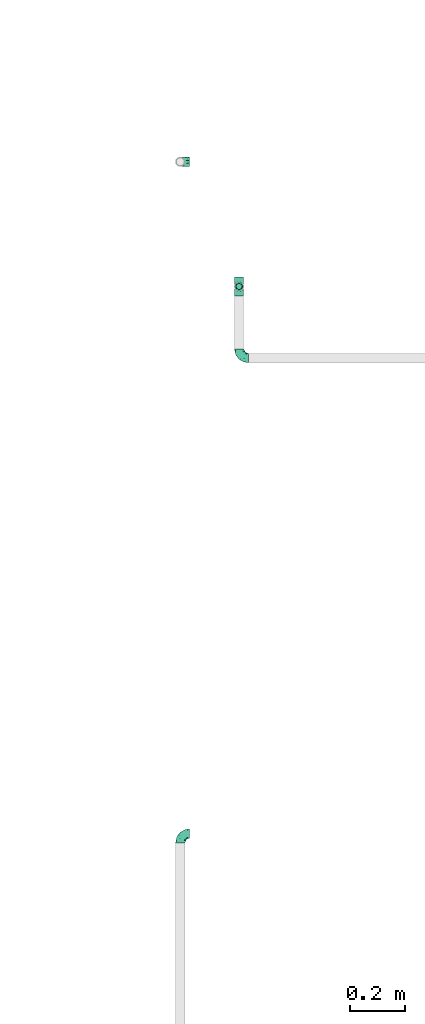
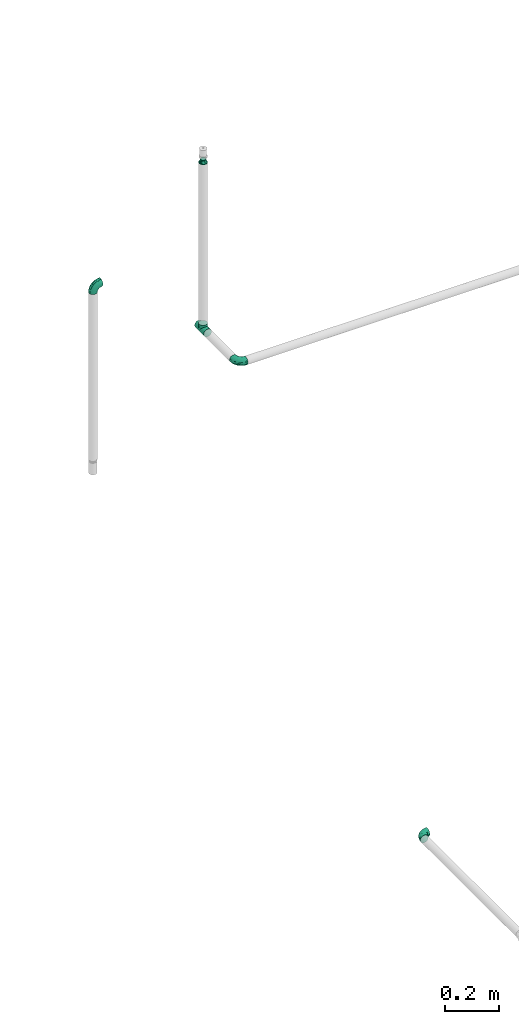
# One storey, part 25 of 94: 5 flow fittings.
"""IFC2X3 building model written with IfcOpenShell, lengths in millimetres."""

from ifc_helpers import new_model, entity, si_unit, converted_unit, derived_unit, direction, frame, origin_with_axes, place, context, subcontext, project, spatial, open_shell, surface_model, source, transform, mapped, type_object, element, save


model = new_model("IFC2X3")

# Units and contexts
model_context = context("Model", 3, precision=0.01, world=frame((0.0, 4.29681676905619e-09, 0.0)), true_north=direction((4.01073788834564e-13, 1.0)))
plan_context = context("Plan", 3, precision=0.01, world=frame((0.0, 4.29681676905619e-09, 0.0)), true_north=direction((4.01073788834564e-13, 1.0)))
body_context = subcontext(model_context, "Body", "Model", "MODEL_VIEW")
ifc_project = project(units=[converted_unit("PLANEANGLEUNIT", "DEGREE", entity("IfcPositiveLengthMeasure", 0.0174532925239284), si_unit("PLANEANGLEUNIT", "RADIAN"), dimensions=[0, 0, 0, 0, 0, 0, 0]), si_unit("AREAUNIT", "SQUARE_METRE"), si_unit("LENGTHUNIT", "METRE", prefix="MILLI"), si_unit("MASSUNIT", "GRAM", prefix="KILO"), si_unit("POWERUNIT", "WATT"), si_unit("PRESSUREUNIT", "PASCAL", prefix="KILO"), si_unit("FORCEUNIT", "NEWTON", prefix="KILO"), si_unit("ELECTRICVOLTAGEUNIT", "VOLT"), si_unit("ELECTRICCURRENTUNIT", "AMPERE"), si_unit("THERMODYNAMICTEMPERATUREUNIT", "DEGREE_CELSIUS"), si_unit("TIMEUNIT", "SECOND"), si_unit("VOLUMEUNIT", "CUBIC_METRE"), derived_unit("LINEARVELOCITYUNIT", [(si_unit("LENGTHUNIT", "METRE"), 1), (si_unit("TIMEUNIT", "SECOND"), -1)]), derived_unit("VOLUMETRICFLOWRATEUNIT", [(si_unit("VOLUMEUNIT", "CUBIC_METRE"), 1), (si_unit("TIMEUNIT", "SECOND"), -1)]), derived_unit("THERMALTRANSMITTANCEUNIT", [(si_unit("POWERUNIT", "WATT"), 1), (si_unit("THERMODYNAMICTEMPERATUREUNIT", "KELVIN"), -1), (si_unit("AREAUNIT", "SQUARE_METRE"), -1)]), derived_unit("SOUNDPRESSUREUNIT", [(si_unit("PRESSUREUNIT", "PASCAL"), 1)])], contexts=[model_context, plan_context])

# Site, building, storey
site_placement = place(None, frame((0.0, -4.29681676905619e-09, 0.0), z_axis=(0.0, 0.0, 1.0), x_axis=(1.0, 0.0, 0.0)))
site = spatial("IfcSite", under=ifc_project, at=site_placement, CompositionType="ELEMENT")
building_placement = place(site_placement, frame((0.0, 4.29681676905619e-09, 0.0), z_axis=(0.0, 0.0, 1.0), x_axis=(1.0, 0.0, 0.0)))
building = spatial("IfcBuilding", under=site, at=building_placement, Name="mc-building", CompositionType="ELEMENT")
storey_placement = place(building_placement, frame((0.0, 0.0, 210900.0), z_axis=(0.0, 0.0, 1.0), x_axis=(1.0, 0.0, 0.0)))
storey = spatial("IfcBuildingStorey", under=building, at=storey_placement, Name="Nivå F", CompositionType="ELEMENT", Elevation=210900.0)

# Flow fittings
pipe_fitting_type_1 = type_object("IfcPipeFittingType", Name="magi_pipe_fe_reducer_centric_short_NOR", PredefinedType="TRANSITION")
shared_shape_1 = source(origin_with_axes(), body_context, "Body", "SurfaceModel", [
    surface_model("IfcShellBasedSurfaceModel", [(14.4, 5.35, -9.26647), (14.4, 0.0, -10.7), (14.4, 2.76936, -10.33541), (14.4, 10.33541, -2.76936), (14.4, 7.56604, -7.56604), (14.4, -10.33541, -2.76936), (14.4, 9.26647, -5.35), (14.4, 0.0, 10.7), (14.4, -5.35, -9.26647), (14.4, -2.76936, -10.33541), (14.4, -7.56604, -7.56604), (14.4, -9.26647, -5.35), (14.4, 10.7, 0.0), (14.4, 10.33541, 2.76936), (14.4, 9.26647, 5.35), (14.4, 7.56604, 7.56604), (14.4, 2.76936, 10.33541), (14.4, 5.35, 9.26647), (14.4, -10.33541, 2.76936), (14.4, -7.56604, 7.56604), (14.4, -9.26647, 5.35), (14.4, -10.7, 0.0), (14.4, -2.76936, 10.33541), (14.4, -5.35, 9.26647), (12.4, 2.76936, 10.33541), (12.4, -10.33541, -2.76936), (12.4, 0.0, 10.7), (12.4, 5.35, 9.26647), (12.4, 7.56604, 7.56604), (12.4, 9.26647, 5.35), (12.4, 10.33541, 2.76936), (12.4, -10.33541, 2.76936), (12.4, -2.76936, 10.33541), (12.4, -7.56604, 7.56604), (12.4, -5.35, 9.26647), (12.4, -9.26647, 5.35), (12.4, -10.7, 0.0), (12.4, 10.33541, -2.76936), (12.4, 5.35, -9.26647), (12.4, 9.26647, -5.35), (12.4, 7.56604, -7.56604), (12.4, 2.76936, -10.33541), (12.4, -9.26647, -5.35), (12.4, -5.35, -9.26647), (12.4, -7.56604, -7.56604), (12.4, 0.0, -10.7), (12.4, -2.76936, -10.33541), (12.4, 10.7, 0.0), (-2.0, 11.9501, 11.9501), (-2.0, 0.0, 16.9), (-2.0, 4.37404, 16.32415), (-2.0, 8.45, 14.63583), (-2.0, 14.63583, 8.45), (-2.0, 16.32415, 4.37404), (-2.0, -16.32415, 4.37404), (-2.0, -8.45, 14.63583), (-2.0, -14.63583, 8.45), (-2.0, -11.9501, 11.9501), (-2.0, -4.37404, 16.32415), (-2.0, -16.32415, -4.37404), (-2.0, -16.9, 0.0), (-2.0, -8.45, -14.63583), (-2.0, 16.32415, -4.37404), (-2.0, 11.9501, -11.9501), (-2.0, 14.63583, -8.45), (-2.0, 8.45, -14.63583), (-2.0, 4.37404, -16.32415), (-2.0, 0.0, -16.9), (-2.0, -11.9501, -11.9501), (-2.0, -14.63583, -8.45), (-2.0, -4.37404, -16.32415), (-2.0, 16.9, 0.0), (0.0, 4.37404, -16.32415), (0.0, 8.45, -14.63583), (0.0, 11.9501, -11.9501), (0.0, 0.0, -16.9), (0.0, 16.32415, -4.37404), (0.0, 16.32415, 4.37404), (0.0, 14.63583, -8.45), (0.0, -8.45, -14.63583), (0.0, -4.37404, -16.32415), (0.0, -11.9501, -11.9501), (0.0, -16.32415, -4.37404), (0.0, -14.63583, -8.45), (0.0, -16.32415, 4.37404), (0.0, 16.9, 0.0), (0.0, 14.63583, 8.45), (0.0, 11.9501, 11.9501), (0.0, 4.37404, 16.32415), (0.0, 8.45, 14.63583), (0.0, 0.0, 16.9), (0.0, -14.63583, 8.45), (0.0, -16.9, 0.0), (0.0, -8.45, 14.63583), (0.0, -11.9501, 11.9501), (0.0, -4.37404, 16.32415), (12.4, 9.3625, -2.31662), (0.0, 14.42505, -5.97505), (0.0, 15.66253, -2.98753), (12.4, -6.6875, -6.94985), (0.0, -13.18758, -8.96258), (0.0, 2.98753, -15.66253), (12.4, 0.0, -9.26647), (12.4, 6.6875, -6.94985), (0.0, 8.96258, -13.18758), (12.4, -9.3625, -2.31662), (0.0, -15.66253, -2.98753), (0.0, -14.42505, -5.97505), (0.0, 5.97505, -14.42505), (0.0, -2.98753, -15.66253), (0.0, -8.96258, -13.18758), (0.0, 13.18758, -8.96258), (12.4, 8.025, -4.63324), (12.4, -2.675, -9.26647), (12.4, 2.675, -9.26647), (0.0, -5.97505, -14.42505), (12.4, -8.025, -4.63324), (12.4, -9.3625, 2.31662), (0.0, -14.42505, 5.97505), (0.0, -15.66253, 2.98753), (12.4, 6.6875, 6.94985), (0.0, 13.18758, 8.96258), (0.0, -2.98753, 15.66253), (12.4, 0.0, 9.26647), (12.4, -6.6875, 6.94985), (0.0, -8.96258, 13.18758), (12.4, 9.3625, 2.31662), (0.0, 15.66253, 2.98753), (0.0, 14.42505, 5.97505), (0.0, -5.97505, 14.42505), (0.0, 2.98753, 15.66253), (0.0, 8.96258, 13.18758), (0.0, -13.18758, 8.96258), (12.4, -8.025, 4.63324), (12.4, 2.675, 9.26647), (12.4, -2.675, 9.26647), (0.0, 5.97505, 14.42505), (12.4, 8.025, 4.63324)], [open_shell([[[0, 1, 2]], [[3, 0, 4]], [[5, 0, 3]], [[3, 4, 6]], [[7, 5, 3]], [[1, 8, 9]], [[1, 0, 8]], [[10, 5, 11]], [[5, 10, 8]], [[0, 5, 8]], [[3, 12, 13]], [[13, 14, 15]], [[13, 15, 16]], [[7, 3, 16]], [[16, 15, 17]], [[7, 18, 5]], [[18, 19, 20]], [[21, 5, 18]], [[19, 22, 23]], [[22, 19, 18]], [[7, 22, 18]], [[13, 16, 3]], [[24, 25, 26]], [[27, 25, 24]], [[28, 29, 30]], [[28, 25, 27]], [[31, 26, 25]], [[32, 33, 34]], [[33, 32, 31]], [[33, 31, 35]], [[32, 26, 31]], [[31, 25, 36]], [[30, 37, 28]], [[25, 28, 37]], [[38, 37, 39]], [[37, 38, 25]], [[38, 39, 40]], [[41, 25, 38]], [[42, 43, 44]], [[43, 42, 25]], [[43, 45, 46]], [[43, 25, 41]], [[41, 45, 43]], [[37, 30, 47]], [[25, 5, 36]], [[42, 11, 25]], [[8, 44, 43]], [[42, 44, 10]], [[9, 43, 46]], [[25, 11, 5]], [[5, 21, 36]], [[9, 8, 43]], [[10, 44, 8]], [[10, 11, 42]], [[1, 9, 46]], [[46, 45, 1]], [[41, 2, 45]], [[38, 0, 41]], [[6, 40, 39]], [[38, 40, 4]], [[3, 39, 37]], [[38, 4, 0]], [[0, 2, 41]], [[12, 3, 37]], [[6, 39, 3]], [[6, 4, 40]], [[47, 12, 37]], [[45, 2, 1]], [[30, 13, 47]], [[29, 14, 30]], [[17, 28, 27]], [[29, 28, 15]], [[16, 27, 24]], [[30, 14, 13]], [[13, 12, 47]], [[16, 17, 27]], [[15, 28, 17]], [[15, 14, 29]], [[7, 16, 24]], [[24, 26, 7]], [[32, 22, 26]], [[34, 23, 32]], [[20, 33, 35]], [[34, 33, 19]], [[18, 35, 31]], [[34, 19, 23]], [[23, 22, 32]], [[21, 18, 31]], [[20, 35, 18]], [[20, 19, 33]], [[36, 21, 31]], [[26, 22, 7]], [[48, 49, 50]], [[48, 50, 51]], [[48, 52, 53]], [[48, 53, 49]], [[49, 53, 54]], [[55, 56, 57]], [[55, 58, 49]], [[56, 55, 49]], [[49, 54, 56]], [[54, 59, 60]], [[54, 53, 61]], [[53, 62, 63]], [[63, 62, 64]], [[63, 65, 66]], [[61, 53, 63]], [[67, 63, 66]], [[59, 68, 69]], [[68, 59, 61]], [[61, 67, 70]], [[59, 54, 61]], [[63, 67, 61]], [[53, 71, 62]], [[72, 73, 74]], [[75, 72, 74]], [[74, 76, 77]], [[76, 74, 78]], [[74, 77, 79]], [[75, 79, 80]], [[75, 74, 79]], [[81, 82, 83]], [[82, 81, 79]], [[79, 84, 82]], [[77, 76, 85]], [[77, 86, 87]], [[77, 87, 88]], [[88, 84, 79]], [[88, 87, 89]], [[84, 88, 90]], [[90, 91, 84]], [[92, 82, 84]], [[91, 93, 94]], [[91, 90, 93]], [[93, 90, 95]], [[79, 77, 88]], [[59, 82, 60]], [[69, 83, 59]], [[79, 68, 61]], [[69, 68, 81]], [[80, 61, 70]], [[59, 83, 82]], [[82, 92, 60]], [[80, 79, 61]], [[81, 68, 79]], [[81, 83, 69]], [[75, 80, 70]], [[70, 67, 75]], [[66, 72, 67]], [[65, 73, 66]], [[78, 63, 64]], [[65, 63, 74]], [[76, 64, 62]], [[65, 74, 73]], [[73, 72, 66]], [[85, 76, 62]], [[78, 64, 76]], [[78, 74, 63]], [[71, 85, 62]], [[67, 72, 75]], [[53, 77, 71]], [[52, 86, 53]], [[89, 48, 51]], [[52, 48, 87]], [[88, 51, 50]], [[53, 86, 77]], [[77, 85, 71]], [[88, 89, 51]], [[87, 48, 89]], [[87, 86, 52]], [[90, 88, 50]], [[50, 49, 90]], [[58, 95, 49]], [[55, 93, 58]], [[91, 57, 56]], [[55, 57, 94]], [[84, 56, 54]], [[55, 94, 93]], [[93, 95, 58]], [[92, 84, 54]], [[91, 56, 84]], [[91, 94, 57]], [[60, 92, 54]], [[49, 95, 90]], [[27, 34, 47]], [[47, 34, 43]], [[43, 38, 47]], [[43, 34, 36]], [[90, 87, 94]], [[92, 94, 87]], [[87, 74, 92]], [[75, 92, 74]], [[81, 92, 75]], [[74, 87, 85]], [[96, 97, 98]], [[81, 99, 100]], [[101, 102, 75]], [[98, 85, 47]], [[74, 103, 104]], [[104, 103, 38]], [[105, 106, 107]], [[38, 108, 104]], [[102, 109, 75]], [[110, 99, 81]], [[47, 96, 98]], [[103, 111, 112]], [[109, 102, 113]], [[36, 92, 106]], [[102, 101, 114]], [[110, 115, 43]], [[96, 112, 97]], [[107, 116, 105]], [[36, 106, 105]], [[113, 115, 109]], [[43, 115, 113]], [[116, 107, 100]], [[108, 38, 114]], [[111, 103, 74]], [[111, 97, 112]], [[99, 110, 43]], [[116, 100, 99]], [[101, 108, 114]], [[117, 118, 119]], [[87, 120, 121]], [[122, 123, 90]], [[119, 92, 36]], [[94, 124, 125]], [[125, 124, 34]], [[126, 127, 128]], [[34, 129, 125]], [[123, 130, 90]], [[131, 120, 87]], [[36, 117, 119]], [[124, 132, 133]], [[130, 123, 134]], [[47, 85, 127]], [[123, 122, 135]], [[131, 136, 27]], [[117, 133, 118]], [[128, 137, 126]], [[47, 127, 126]], [[134, 136, 130]], [[27, 136, 134]], [[137, 128, 121]], [[129, 34, 135]], [[132, 124, 94]], [[132, 118, 133]], [[120, 131, 27]], [[137, 121, 120]], [[122, 129, 135]]])]),
])
flow_fitting_1_placement = place(storey_placement, frame((716213.48481, 438166.03424, 4357.64799999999), z_axis=(-1.0, 0.0, 0.0), x_axis=(0.0, 0.0, 1.0)))
element("IfcFlowFitting", 1, at=flow_fitting_1_placement, inside=storey, type_object=pipe_fitting_type_1, Name="magi_pipe_fe_reducer_centric_short_NOR", context=body_context, shape_type="MappedRepresentation", body=[
    mapped(shared_shape_1, transform((0.0, 0.0, 0.0), scale=1.0)),
])
pipe_fitting_type_2 = type_object("IfcPipeFittingType", Name="magi_pipe_fe_tee_centric_90_NOR", PredefinedType="JUNCTION")
shared_shape_2 = source(origin_with_axes(), body_context, "Body", "SurfaceModel", [
    surface_model("IfcShellBasedSurfaceModel", [(-33.8, 4.37404, -16.32415), (-33.8, 0.0, -16.9), (-33.8, 16.32415, -4.37404), (-33.8, 8.45, -14.63583), (-33.8, 11.9501, -11.9501), (-33.8, 14.63583, -8.45), (-33.8, -16.9, 0.0), (-33.8, -11.9501, -11.9501), (-33.8, -14.63583, -8.45), (-33.8, -8.45, -14.63583), (-33.8, -4.37404, -16.32415), (-33.8, -16.32415, -4.37404), (-33.8, 14.63583, 8.45), (-33.8, 16.32415, 4.37404), (-33.8, -8.45, 14.63583), (-33.8, 8.45, 14.63583), (-33.8, 11.9501, 11.9501), (-33.8, 4.37404, 16.32415), (-33.8, 0.0, 16.9), (-33.8, -11.9501, 11.9501), (-33.8, -14.63583, 8.45), (-33.8, -16.32415, 4.37404), (-33.8, -4.37404, 16.32415), (-33.8, 16.9, 0.0), (33.8, 4.37404, -16.32415), (33.8, -16.9, 0.0), (33.8, 0.0, -16.9), (33.8, 14.63583, -8.45), (33.8, 8.45, -14.63583), (33.8, 16.32415, -4.37404), (33.8, 11.9501, -11.9501), (33.8, -16.32415, 4.37404), (33.8, -8.45, -14.63583), (33.8, -4.37404, -16.32415), (33.8, -11.9501, -11.9501), (33.8, -14.63583, -8.45), (33.8, -16.32415, -4.37404), (33.8, 16.32415, 4.37404), (33.8, 8.45, 14.63583), (33.8, 14.63583, 8.45), (33.8, 11.9501, 11.9501), (33.8, -8.45, 14.63583), (33.8, 4.37404, 16.32415), (33.8, -14.63583, 8.45), (33.8, -11.9501, 11.9501), (33.8, 0.0, 16.9), (33.8, -4.37404, 16.32415), (33.8, 16.9, 0.0), (16.28698, -16.28698, 4.51047), (16.9, -16.9, 0.0), (14.62704, -14.62704, 8.4652), (9.47213, -9.47213, 13.99602), (12.26343, -12.26343, 11.62834), (-16.9, -16.9, 0.0), (-16.28698, -16.28698, 4.51047), (-14.62704, -14.62704, 8.4652), (-12.26343, -12.26343, 11.62834), (-9.47213, -9.47213, 13.99602), (-6.42894, -6.42894, 15.62942), (6.42894, -6.42894, 15.62942), (3.24522, -3.24522, 16.58549), (0.0, 0.0, 16.9), (-3.24522, -3.24522, 16.58549), (3.24522, -3.24522, -16.58549), (0.0, 0.0, -16.9), (-3.24522, -3.24522, -16.58549), (-6.42894, -6.42894, -15.62942), (6.42894, -6.42894, -15.62942), (9.47213, -9.47213, -13.99602), (12.26343, -12.26343, -11.62834), (14.62704, -14.62704, -8.4652), (16.28698, -16.28698, -4.51047), (-9.47213, -9.47213, -13.99602), (-12.26343, -12.26343, -11.62834), (-16.28698, -16.28698, -4.51047), (-14.62704, -14.62704, -8.4652), (4.37404, -25.35, -16.32415), (-16.9, -25.35, 0.0), (0.0, -25.35, -16.9), (14.63583, -25.35, -8.45), (8.45, -25.35, -14.63583), (16.32415, -25.35, -4.37404), (11.9501, -25.35, -11.9501), (-11.9501, -25.35, -11.9501), (-8.45, -25.35, -14.63583), (-4.37404, -25.35, -16.32415), (-14.63583, -25.35, -8.45), (-16.32415, -25.35, -4.37404), (16.9, -25.35, 0.0), (8.45, -25.35, 14.63583), (16.32415, -25.35, 4.37404), (14.63583, -25.35, 8.45), (-8.45, -25.35, 14.63583), (11.9501, -25.35, 11.9501), (4.37404, -25.35, 16.32415), (-16.32415, -25.35, 4.37404), (-11.9501, -25.35, 11.9501), (-14.63583, -25.35, 8.45), (0.0, -25.35, 16.9), (-4.37404, -25.35, 16.32415)], [open_shell([[[0, 1, 2]], [[3, 0, 4]], [[0, 2, 5]], [[4, 0, 5]], [[6, 2, 1]], [[7, 8, 9]], [[1, 10, 9]], [[11, 6, 8]], [[1, 9, 8]], [[1, 8, 6]], [[6, 12, 2]], [[12, 13, 2]], [[14, 12, 6]], [[12, 14, 15]], [[16, 12, 15]], [[17, 15, 18]], [[19, 14, 20]], [[21, 20, 14]], [[22, 18, 14]], [[14, 6, 21]], [[14, 18, 15]], [[23, 2, 13]], [[24, 25, 26]], [[27, 24, 28]], [[27, 29, 24]], [[27, 28, 30]], [[31, 25, 24]], [[26, 32, 33]], [[26, 34, 32]], [[35, 25, 36]], [[35, 34, 26]], [[25, 35, 26]], [[24, 29, 31]], [[29, 37, 38]], [[38, 37, 39]], [[38, 31, 29]], [[38, 39, 40]], [[41, 38, 42]], [[43, 41, 44]], [[41, 43, 31]], [[41, 45, 46]], [[41, 31, 38]], [[42, 45, 41]], [[29, 47, 37]], [[31, 43, 48]], [[25, 31, 49]], [[49, 31, 48]], [[43, 50, 48]], [[44, 41, 51]], [[50, 43, 52]], [[51, 52, 44]], [[52, 43, 44]], [[53, 54, 21]], [[53, 21, 6]], [[21, 54, 20]], [[54, 55, 20]], [[56, 57, 19]], [[19, 20, 56]], [[19, 57, 14]], [[56, 20, 55]], [[14, 57, 58]], [[51, 41, 59]], [[60, 45, 61]], [[59, 46, 60]], [[46, 59, 41]], [[60, 46, 45]], [[61, 45, 42]], [[39, 37, 13]], [[16, 38, 40]], [[12, 40, 39]], [[42, 38, 15]], [[23, 37, 47]], [[62, 61, 18]], [[62, 22, 58]], [[22, 62, 18]], [[58, 22, 14]], [[61, 17, 18]], [[42, 17, 61]], [[15, 17, 42]], [[15, 38, 16]], [[12, 16, 40]], [[13, 12, 39]], [[37, 23, 13]], [[5, 27, 30]], [[23, 47, 29]], [[30, 28, 3]], [[27, 2, 29]], [[26, 33, 63]], [[26, 64, 24]], [[64, 26, 63]], [[28, 24, 0]], [[64, 0, 24]], [[4, 30, 3]], [[2, 27, 5]], [[5, 30, 4]], [[2, 23, 29]], [[65, 66, 10]], [[1, 0, 64]], [[1, 65, 10]], [[66, 9, 10]], [[0, 3, 28]], [[1, 64, 65]], [[63, 33, 67]], [[32, 34, 68]], [[69, 68, 34]], [[35, 70, 69]], [[69, 34, 35]], [[32, 68, 67]], [[36, 25, 49]], [[36, 71, 35]], [[71, 36, 49]], [[35, 71, 70]], [[72, 9, 66]], [[72, 7, 9]], [[7, 72, 73]], [[7, 73, 8]], [[74, 53, 11]], [[75, 74, 8]], [[74, 11, 8]], [[11, 53, 6]], [[75, 8, 73]], [[32, 67, 33]], [[76, 77, 78]], [[79, 76, 80]], [[79, 81, 76]], [[79, 80, 82]], [[77, 76, 81]], [[78, 83, 84]], [[84, 85, 78]], [[86, 77, 87]], [[83, 78, 86]], [[77, 86, 78]], [[81, 88, 77]], [[89, 88, 90]], [[89, 90, 91]], [[92, 77, 89]], [[89, 91, 93]], [[92, 89, 94]], [[95, 96, 97]], [[96, 95, 92]], [[92, 98, 99]], [[95, 77, 92]], [[94, 98, 92]], [[89, 77, 88]], [[77, 95, 53]], [[54, 53, 95]], [[97, 96, 56]], [[96, 92, 57]], [[95, 97, 54]], [[58, 92, 99]], [[55, 54, 97]], [[56, 55, 97]], [[58, 57, 92]], [[98, 61, 62]], [[58, 99, 62]], [[56, 96, 57]], [[62, 99, 98]], [[94, 60, 98]], [[89, 59, 94]], [[91, 90, 48]], [[52, 93, 91]], [[93, 51, 89]], [[49, 90, 88]], [[59, 60, 94]], [[51, 59, 89]], [[49, 48, 90]], [[50, 52, 91]], [[48, 50, 91]], [[51, 93, 52]], [[98, 60, 61]], [[88, 81, 49]], [[71, 49, 81]], [[79, 82, 69]], [[82, 80, 68]], [[81, 79, 71]], [[67, 80, 76]], [[70, 71, 79]], [[69, 70, 79]], [[67, 68, 80]], [[78, 64, 63]], [[67, 76, 63]], [[69, 82, 68]], [[63, 76, 78]], [[85, 65, 78]], [[84, 66, 85]], [[86, 87, 74]], [[86, 73, 83]], [[72, 84, 83]], [[53, 87, 77]], [[66, 65, 85]], [[72, 66, 84]], [[53, 74, 87]], [[75, 73, 86]], [[74, 75, 86]], [[72, 83, 73]], [[78, 65, 64]]])]),
])
flow_fitting_2_placement = place(storey_placement, frame((716213.48481, 438166.03424, 3600.0), z_axis=(-1.0, 0.0, 0.0), x_axis=(0.0, 1.0, 0.0)))
element("IfcFlowFitting", 2, at=flow_fitting_2_placement, inside=storey, type_object=pipe_fitting_type_2, Name="magi_pipe_fe_tee_centric_90_NOR", context=body_context, shape_type="MappedRepresentation", body=[
    mapped(shared_shape_2, transform((0.0, 0.0, 0.0), scale=1.0)),
])
pipe_fitting_type_3 = type_object("IfcPipeFittingType", Name="magi_pipe_fe_elbow_short_001", PredefinedType="BEND")
shared_shape_3 = source(origin_with_axes(), body_context, "Body", "SurfaceModel", [
    surface_model("IfcShellBasedSurfaceModel", [(-33.8, 8.45, -14.63583), (-33.8, 4.37404, -16.32415), (-33.8, 11.9501, -11.9501), (-33.8, -11.9501, -11.9501), (-33.8, -14.63583, -8.45), (-33.8, -8.45, -14.63583), (-33.8, 0.0, -16.9), (-33.8, -4.37404, -16.32415), (-33.8, -4.37404, 16.32415), (-33.8, 0.0, 16.9), (-33.8, -8.45, 14.63583), (-33.8, 16.32415, -4.37404), (-33.8, 14.63583, -8.45), (-33.8, -16.32415, -4.37404), (-33.8, -16.9, 0.0), (-33.8, -16.32415, 4.37404), (-33.8, 11.9501, 11.9501), (-33.8, 14.63583, 8.45), (-33.8, 16.32415, 4.37404), (-33.8, 4.37404, 16.32415), (-33.8, 8.45, 14.63583), (-33.8, -14.63583, 8.45), (-33.8, -11.9501, 11.9501), (-33.8, 16.9, 0.0), (-11.9501, 33.8, -11.9501), (0.0, 33.8, -16.9), (-4.37404, 33.8, -16.32415), (-8.45, 33.8, -14.63583), (-14.63583, 33.8, -8.45), (-16.32415, 33.8, -4.37404), (14.63583, 33.8, -8.45), (8.45, 33.8, 14.63583), (16.32415, 33.8, -4.37404), (8.45, 33.8, -14.63583), (11.9501, 33.8, -11.9501), (4.37404, 33.8, -16.32415), (16.32415, 33.8, 4.37404), (16.9, 33.8, 0.0), (-11.9501, 33.8, 11.9501), (-16.32415, 33.8, 4.37404), (-14.63583, 33.8, 8.45), (-8.45, 33.8, 14.63583), (-4.37404, 33.8, 16.32415), (11.9501, 33.8, 11.9501), (14.63583, 33.8, 8.45), (0.0, 33.8, 16.9), (4.37404, 33.8, 16.32415), (-16.9, 33.8, 0.0), (-24.79389, -13.12945, 9.48721), (-22.19287, -9.75018, 12.59315), (-24.09897, -14.97035, 0.0), (-14.93934, -10.76256, 8.5297), (-22.46095, -14.75051, 5.27077), (14.75051, 22.46094, 5.27077), (11.9251, 13.23888, 4.33236), (13.04069, 14.39795, 0.0), (7.71387, 13.68847, 11.55891), (9.75018, 22.19287, 12.59315), (4.10169, 13.0571, 14.04018), (-24.84007, -6.39063, 15.2048), (-25.81779, -2.23879, 16.61097), (-23.66549, 2.59054, 16.87119), (-26.50418, 14.06512, 11.08152), (-24.21253, 17.66365, 7.72657), (-29.58514, 15.86957, 7.00283), (-6.17382, -7.5455, 0.0), (-13.23888, -11.9251, 4.33236), (-14.39795, -13.04069, 0.0), (-17.81434, 18.87373, 11.97104), (-6.30846, 29.15138, 15.82987), (-2.31622, 25.28002, 16.85849), (-29.23923, 10.23435, 13.77053), (-1.45439, -2.85688, 7.61475), (-0.28326, 0.34872, 10.09509), (-5.74484, -4.04709, 10.4122), (-4.41137, 11.31918, 16.59407), (-8.39727, 3.10034, 15.7812), (-1.72649, 9.1306, 15.53089), (-17.39909, 24.75344, 7.64977), (-26.19233, 20.0512, 0.0), (-28.14518, 17.29657, 4.25857), (-26.05147, 6.6281, 15.96447), (-5.87354, 16.61944, 16.86968), (-12.51807, 12.51807, 16.48937), (-10.06312, 7.38516, 16.81295), (-3.01882, 3.01882, 13.81718), (-13.0571, -4.10169, 14.04018), (-16.82553, -0.15166, 16.38038), (10.76256, 14.93934, 8.5297), (13.12945, 24.79389, 9.48721), (6.39063, 24.84007, 15.2048), (2.23879, 25.81779, 16.61097), (-13.68847, -7.71387, 11.55891), (14.97035, 24.09897, 0.0), (-7.30894, 22.89991, 16.09489), (-10.67958, 26.17414, 14.008), (-12.78295, 18.26924, 15.06066), (-13.88562, 22.45231, 12.93244), (-18.04944, 15.16501, 14.04434), (-23.11658, 20.08178, 4.02986), (-21.84989, 21.84989, 0.0), (-18.55817, 25.48277, 3.93065), (-13.95142, 26.94732, 11.03289), (-18.57098, 7.23906, 16.59756), (-16.58335, 4.14122, 16.89279), (-17.96666, 11.46709, 15.63151), (-9.84453, 17.54304, 16.18938), (0.15166, 16.82553, 16.38038), (-23.27207, 11.47201, 14.23154), (3.84842, 5.86994, 10.70473), (-8.0212, -7.54413, 7.93275), (1.00345, -2.19508, 4.57414), (5.13203, 3.01004, 5.90201), (5.24161, 1.7543, 2.53265), (8.70457, 7.04947, 3.99182), (-20.0512, 26.19233, 0.0), (8.4852, 8.76699, 7.09296), (-4.55488, -6.72064, 4.90681), (2.05031, -2.05031, 0.0), (7.5455, 6.17382, 0.0), (-26.75399, 2.1369, -16.845), (-14.61995, 24.73803, -11.27736), (-28.45274, -13.45335, -9.81895), (-26.00469, 6.63555, -15.96645), (-23.06726, 20.04573, -4.26202), (-13.80647, -4.26506, -14.17873), (-14.67501, -0.21081, -16.07388), (-6.7902, -0.2828, -13.8478), (-24.53586, 11.08096, -14.13417), (-26.72048, 14.00837, -11.05776), (10.0967, 24.44989, -12.75976), (5.83237, 21.40218, -15.03047), (6.66249, 28.54238, -15.38093), (-20.38182, 15.48705, -12.74596), (12.53268, 21.23441, -9.15363), (12.54494, 15.67504, -5.54878), (9.7522, 12.89279, -8.66343), (-15.65186, 19.64213, -13.01327), (-12.03528, 20.66498, -14.67665), (-15.61907, 15.61906, -14.83879), (-25.56551, -15.26206, 0.0), (-24.65452, -15.12934, -5.50955), (13.45335, 28.45274, -9.81895), (15.12934, 24.65452, -5.50955), (-7.35442, -8.31014, -5.65563), (-15.67504, -12.54494, -5.54878), (-24.44989, -10.0967, -12.75976), (0.16522, 0.41303, -9.71728), (-5.70658, -5.33066, -8.89288), (-5.13869, -2.37198, -11.53565), (-21.23441, -12.53268, -9.15363), (0.71146, 7.93863, -14.09382), (0.21081, 14.67501, -16.07388), (3.49291, 14.42772, -14.76381), (-24.89911, -2.13088, -16.591), (-28.54238, -6.66249, -15.38093), (-18.44386, -7.71663, -13.26957), (2.13088, 24.89911, -16.591), (-28.64342, 17.44413, -2.89318), (1.70017, -1.28722, -5.09504), (-16.57067, 26.81947, -7.36596), (-17.69055, 27.4263, -3.76405), (-12.89279, -9.7522, -8.66343), (-5.96611, 5.96611, -15.95814), (-20.53709, 20.09345, -8.28985), (-2.1369, 26.75399, -16.845), (-6.89872, 24.58781, -16.02578), (-10.60739, 26.53157, -13.98044), (-21.40218, -5.83237, -15.03047), (2.93192, 5.89627, -11.55917), (6.89393, 12.61842, -11.82233), (5.58056, 5.95325, -8.79455), (-3.99512, 18.61798, -16.89635), (8.31014, 7.35442, -5.65563), (-9.1383, 9.86148, -16.89041), (-9.99983, 16.02119, -16.39699), (-16.68576, 9.78031, -16.34199), (-27.01915, 16.61158, -7.12979), (15.26206, 25.56551, 0.0), (-18.61798, 3.99512, -16.89635), (-19.37495, 27.82495, 0.0), (-12.61842, -6.89393, -11.82233), (-18.84705, 19.14018, -10.96545)], [open_shell([[[0, 1, 2]], [[3, 4, 5]], [[6, 7, 5]], [[8, 9, 10]], [[1, 6, 2]], [[11, 12, 2]], [[4, 2, 6]], [[2, 13, 10]], [[5, 4, 6]], [[2, 4, 13]], [[14, 15, 13]], [[11, 2, 16]], [[11, 17, 18]], [[11, 16, 17]], [[19, 20, 16]], [[16, 2, 10]], [[19, 16, 10]], [[21, 22, 15]], [[22, 13, 15]], [[22, 10, 13]], [[10, 9, 19]], [[11, 18, 23]], [[24, 25, 26]], [[24, 26, 27]], [[24, 28, 29]], [[25, 24, 30]], [[31, 32, 24]], [[33, 30, 34]], [[33, 35, 25]], [[25, 30, 33]], [[32, 30, 24]], [[32, 36, 37]], [[38, 24, 29]], [[39, 40, 29]], [[40, 38, 29]], [[38, 41, 42]], [[38, 31, 24]], [[31, 38, 42]], [[36, 43, 44]], [[36, 32, 43]], [[31, 45, 46]], [[32, 31, 43]], [[42, 45, 31]], [[39, 29, 47]], [[22, 48, 49]], [[15, 14, 50]], [[51, 48, 52]], [[53, 54, 55]], [[48, 22, 21]], [[15, 52, 21]], [[56, 57, 58]], [[49, 10, 22]], [[49, 59, 10]], [[9, 60, 61]], [[62, 63, 64]], [[65, 66, 67]], [[57, 43, 31]], [[62, 68, 63]], [[42, 69, 70]], [[20, 71, 16]], [[8, 60, 9]], [[72, 73, 74]], [[75, 76, 77]], [[16, 62, 17]], [[40, 39, 78]], [[79, 23, 80]], [[64, 18, 17]], [[9, 61, 19]], [[19, 81, 20]], [[82, 83, 84]], [[74, 85, 86]], [[59, 86, 87]], [[88, 89, 57]], [[90, 31, 46]], [[44, 53, 36]], [[46, 45, 91]], [[54, 53, 88]], [[44, 89, 53]], [[92, 86, 49]], [[89, 44, 43]], [[10, 59, 8]], [[53, 55, 93]], [[93, 36, 53]], [[66, 52, 67]], [[94, 82, 70]], [[95, 96, 94]], [[97, 98, 96]], [[79, 99, 100]], [[41, 38, 95]], [[101, 100, 99]], [[68, 78, 63]], [[42, 41, 69]], [[23, 18, 80]], [[95, 94, 69]], [[78, 101, 99]], [[38, 102, 95]], [[70, 45, 42]], [[97, 95, 102]], [[15, 50, 52]], [[90, 57, 31]], [[57, 90, 58]], [[81, 19, 61]], [[103, 104, 84]], [[105, 81, 103]], [[38, 40, 102]], [[106, 96, 83]], [[94, 106, 82]], [[91, 70, 107]], [[71, 62, 16]], [[62, 108, 98]], [[86, 59, 49]], [[67, 52, 50]], [[60, 59, 87]], [[92, 49, 51]], [[86, 85, 76]], [[91, 90, 46]], [[37, 36, 93]], [[107, 77, 58]], [[107, 58, 90]], [[58, 85, 109]], [[110, 74, 92]], [[72, 74, 110]], [[66, 51, 52]], [[72, 111, 112]], [[113, 114, 112]], [[56, 88, 57]], [[52, 48, 21]], [[49, 48, 51]], [[57, 89, 43]], [[53, 89, 88]], [[103, 81, 61]], [[71, 81, 108]], [[18, 64, 80]], [[63, 78, 99]], [[47, 115, 101]], [[101, 115, 100]], [[40, 78, 102]], [[68, 102, 78]], [[97, 96, 95]], [[105, 98, 108]], [[103, 84, 83]], [[107, 70, 82]], [[76, 84, 87]], [[82, 84, 75]], [[70, 91, 45]], [[90, 91, 107]], [[59, 60, 8]], [[61, 60, 87]], [[73, 85, 74]], [[109, 112, 116]], [[103, 61, 104]], [[105, 103, 83]], [[96, 105, 83]], [[81, 105, 108]], [[96, 98, 105]], [[62, 98, 68]], [[61, 87, 104]], [[87, 84, 104]], [[86, 76, 87]], [[77, 76, 85]], [[58, 77, 85]], [[75, 77, 107]], [[82, 75, 107]], [[76, 75, 84]], [[81, 71, 20]], [[62, 71, 108]], [[95, 69, 41]], [[70, 69, 94]], [[62, 64, 17]], [[80, 63, 99]], [[63, 80, 64]], [[80, 99, 79]], [[66, 65, 117]], [[110, 66, 117]], [[112, 114, 116]], [[118, 117, 65]], [[110, 92, 51]], [[112, 111, 113]], [[119, 55, 54]], [[74, 86, 92]], [[58, 109, 56]], [[116, 56, 109]], [[66, 110, 51]], [[72, 110, 117]], [[111, 72, 117]], [[73, 112, 109]], [[117, 118, 111]], [[113, 111, 118]], [[118, 119, 113]], [[114, 119, 54]], [[119, 114, 113]], [[116, 54, 88]], [[54, 116, 114]], [[116, 88, 56]], [[112, 73, 72]], [[85, 73, 109]], [[78, 39, 101]], [[47, 101, 39]], [[102, 68, 97]], [[97, 68, 98]], [[82, 106, 83]], [[94, 96, 106]], [[1, 120, 6]], [[28, 24, 121]], [[3, 122, 4]], [[0, 123, 1]], [[100, 124, 79]], [[125, 126, 127]], [[128, 2, 129]], [[130, 131, 132]], [[128, 129, 133]], [[134, 135, 136]], [[137, 138, 139]], [[128, 0, 2]], [[67, 140, 141]], [[134, 142, 143]], [[141, 13, 4]], [[144, 65, 145]], [[146, 3, 5]], [[147, 148, 149]], [[145, 141, 150]], [[151, 152, 153]], [[154, 7, 6]], [[5, 155, 146]], [[150, 146, 156]], [[155, 5, 7]], [[143, 135, 134]], [[35, 157, 25]], [[23, 79, 158]], [[148, 159, 144]], [[160, 161, 29]], [[145, 162, 144]], [[163, 152, 151]], [[29, 28, 160]], [[121, 164, 160]], [[33, 34, 130]], [[25, 165, 26]], [[26, 165, 166]], [[142, 34, 30]], [[24, 27, 167]], [[124, 161, 164]], [[157, 35, 132]], [[155, 154, 168]], [[123, 0, 128]], [[169, 170, 171]], [[172, 157, 152]], [[26, 166, 27]], [[132, 35, 33]], [[142, 130, 34]], [[168, 154, 126]], [[136, 135, 173]], [[133, 137, 139]], [[2, 12, 129]], [[170, 131, 130]], [[30, 32, 143]], [[172, 174, 175]], [[176, 123, 128]], [[158, 177, 11]], [[135, 55, 119]], [[167, 27, 166]], [[175, 166, 172]], [[137, 167, 138]], [[122, 141, 4]], [[140, 14, 13]], [[32, 37, 178]], [[170, 130, 134]], [[152, 157, 131]], [[165, 157, 172]], [[153, 170, 151]], [[152, 163, 174]], [[168, 125, 156]], [[122, 146, 150]], [[120, 154, 6]], [[179, 174, 126]], [[179, 126, 154]], [[126, 163, 127]], [[162, 145, 150]], [[140, 13, 141]], [[32, 178, 143]], [[55, 143, 178]], [[177, 129, 12]], [[128, 133, 139]], [[176, 128, 139]], [[120, 123, 179]], [[121, 160, 28]], [[161, 100, 180]], [[166, 175, 138]], [[121, 24, 167]], [[161, 47, 29]], [[79, 124, 158]], [[124, 164, 177]], [[161, 124, 100]], [[136, 171, 170]], [[127, 163, 151]], [[147, 171, 159]], [[148, 144, 162]], [[127, 151, 169]], [[127, 181, 125]], [[129, 177, 164]], [[12, 11, 177]], [[159, 65, 144]], [[67, 141, 145]], [[143, 55, 135]], [[135, 119, 173]], [[123, 120, 1]], [[154, 120, 179]], [[157, 165, 25]], [[166, 165, 172]], [[172, 152, 174]], [[176, 139, 175]], [[126, 174, 163]], [[176, 174, 179]], [[174, 176, 175]], [[123, 176, 179]], [[150, 181, 162]], [[127, 149, 181]], [[181, 148, 162]], [[159, 148, 147]], [[171, 136, 173]], [[170, 134, 136]], [[159, 171, 173]], [[171, 147, 169]], [[169, 147, 149]], [[151, 170, 169]], [[164, 182, 129]], [[182, 121, 137]], [[181, 149, 148]], [[169, 149, 127]], [[182, 137, 133]], [[167, 137, 121]], [[166, 138, 167]], [[175, 139, 138]], [[129, 182, 133]], [[121, 182, 164]], [[161, 160, 164]], [[47, 161, 180]], [[177, 158, 124]], [[23, 158, 11]], [[130, 132, 33]], [[157, 132, 131]], [[143, 142, 30]], [[130, 142, 134]], [[154, 155, 7]], [[146, 155, 168]], [[146, 122, 3]], [[141, 122, 150]], [[152, 131, 153]], [[159, 119, 118]], [[67, 145, 65]], [[170, 153, 131]], [[119, 159, 173]], [[159, 118, 65]], [[156, 125, 181]], [[126, 125, 168]], [[150, 156, 181]], [[168, 156, 146]]])]),
])
for number, where, z_axis, x_axis, name in (
    (3, (716213.48481, 437906.03424, 3600.0), (0.0, 0.0, 1.0), (0.0, -1.0, 0.0), "magi_pipe_fe_elbow_short_001"),
    (4, (716000.0, 436180.95076, 2575.448), (0.0, 0.0, 1.0), (-1.0, 0.0, 0.0), "magi_pipe_fe_elbow_short_001"),
    (5, (716000.0, 438618.37443, 3600.0), (0.0, 1.0, 0.0), (0.0, 0.0, 1.0), "magi_pipe_fe_elbow_short_001"),
):
    element("IfcFlowFitting", number, at=place(storey_placement, frame(where, z_axis=z_axis, x_axis=x_axis)), inside=storey, type_object=pipe_fitting_type_3, Name=name, context=body_context, shape_type="MappedRepresentation", body=[
        mapped(shared_shape_3, transform((0.0, 0.0, 0.0), scale=1.0)),
    ])

save(model, "model.ifc")
